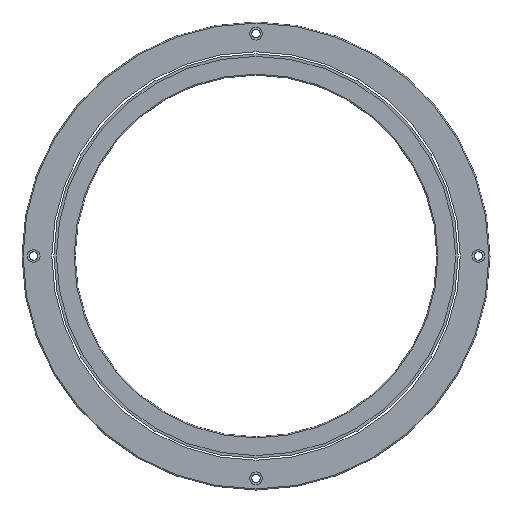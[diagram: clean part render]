
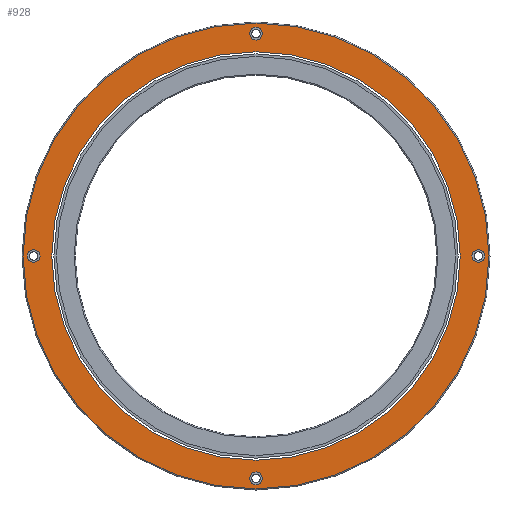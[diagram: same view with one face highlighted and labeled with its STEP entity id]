
A CAD part, front view. The second image highlights one B-rep face of the part: STEP entity #928.
In plain terms, the highlighted planar face has unit normal (0, -1, 0).
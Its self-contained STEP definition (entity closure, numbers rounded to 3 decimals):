
#43=CARTESIAN_POINT('',(0.,0.,0.));
#44=DIRECTION('',(0.,-1.,0.));
#45=DIRECTION('',(-1.,0.,0.));
#46=AXIS2_PLACEMENT_3D('',#43,#44,#45);
#48=CARTESIAN_POINT('',(0.,0.,0.));
#49=DIRECTION('',(0.,1.,0.));
#50=DIRECTION('',(-1.,0.,0.));
#51=AXIS2_PLACEMENT_3D('',#48,#49,#50);
#53=CARTESIAN_POINT('',(-104.5,0.,0.));
#54=DIRECTION('',(0.,1.,0.));
#55=DIRECTION('',(1.,0.,0.));
#56=AXIS2_PLACEMENT_3D('',#53,#54,#55);
#58=CARTESIAN_POINT('',(-104.5,0.,0.));
#59=DIRECTION('',(0.,1.,0.));
#60=DIRECTION('',(-1.,0.,0.));
#61=AXIS2_PLACEMENT_3D('',#58,#59,#60);
#63=CARTESIAN_POINT('',(0.,0.,104.5));
#64=DIRECTION('',(0.,1.,0.));
#65=DIRECTION('',(0.,0.,-1.));
#66=AXIS2_PLACEMENT_3D('',#63,#64,#65);
#68=CARTESIAN_POINT('',(0.,0.,104.5));
#69=DIRECTION('',(0.,1.,0.));
#70=DIRECTION('',(0.,0.,1.));
#71=AXIS2_PLACEMENT_3D('',#68,#69,#70);
#73=CARTESIAN_POINT('',(104.5,0.,0.));
#74=DIRECTION('',(0.,1.,0.));
#75=DIRECTION('',(-1.,0.,0.));
#76=AXIS2_PLACEMENT_3D('',#73,#74,#75);
#78=CARTESIAN_POINT('',(104.5,0.,0.));
#79=DIRECTION('',(0.,1.,0.));
#80=DIRECTION('',(1.,0.,0.));
#81=AXIS2_PLACEMENT_3D('',#78,#79,#80);
#83=CARTESIAN_POINT('',(0.,0.,-104.5));
#84=DIRECTION('',(0.,1.,0.));
#85=DIRECTION('',(0.,0.,1.));
#86=AXIS2_PLACEMENT_3D('',#83,#84,#85);
#88=CARTESIAN_POINT('',(0.,0.,-104.5));
#89=DIRECTION('',(0.,1.,0.));
#90=DIRECTION('',(0.,0.,-1.));
#91=AXIS2_PLACEMENT_3D('',#88,#89,#90);
#93=CARTESIAN_POINT('',(0.,0.,0.));
#94=DIRECTION('',(0.,1.,0.));
#95=DIRECTION('',(-1.,0.,0.));
#96=AXIS2_PLACEMENT_3D('',#93,#94,#95);
#98=CARTESIAN_POINT('',(0.,0.,0.));
#99=DIRECTION('',(0.,1.,0.));
#100=DIRECTION('',(1.,0.,0.));
#101=AXIS2_PLACEMENT_3D('',#98,#99,#100);
#751=CARTESIAN_POINT('',(-101.5,0.,0.));
#752=VERTEX_POINT('',#751);
#753=CARTESIAN_POINT('',(-107.5,0.,0.));
#754=VERTEX_POINT('',#753);
#763=CARTESIAN_POINT('',(0.,0.,101.5));
#764=VERTEX_POINT('',#763);
#765=CARTESIAN_POINT('',(0.,0.,107.5));
#766=VERTEX_POINT('',#765);
#775=CARTESIAN_POINT('',(101.5,0.,0.));
#776=VERTEX_POINT('',#775);
#777=CARTESIAN_POINT('',(107.5,0.,0.));
#778=VERTEX_POINT('',#777);
#787=CARTESIAN_POINT('',(0.,0.,-101.5));
#788=VERTEX_POINT('',#787);
#789=CARTESIAN_POINT('',(0.,0.,-107.5));
#790=VERTEX_POINT('',#789);
#808=CARTESIAN_POINT('',(-96.,0.,0.));
#810=VERTEX_POINT('',#808);
#812=CARTESIAN_POINT('',(96.,0.,0.));
#814=VERTEX_POINT('',#812);
#827=CARTESIAN_POINT('',(-109.5,0.,0.));
#828=CARTESIAN_POINT('',(109.5,0.,0.));
#829=VERTEX_POINT('',#827);
#830=VERTEX_POINT('',#828);
#889=CARTESIAN_POINT('',(0.,0.,0.));
#890=DIRECTION('',(0.,1.,0.));
#891=DIRECTION('',(1.,0.,0.));
#892=AXIS2_PLACEMENT_3D('',#889,#890,#891);
#893=PLANE('',#892);
#895=ORIENTED_EDGE('',*,*,#894,.T.);
#897=ORIENTED_EDGE('',*,*,#896,.T.);
#898=EDGE_LOOP('',(#895,#897));
#899=FACE_OUTER_BOUND('',#898,.F.);
#900=ORIENTED_EDGE('',*,*,#868,.F.);
#901=ORIENTED_EDGE('',*,*,#884,.F.);
#902=EDGE_LOOP('',(#900,#901));
#903=FACE_BOUND('',#902,.F.);
#905=ORIENTED_EDGE('',*,*,#904,.F.);
#907=ORIENTED_EDGE('',*,*,#906,.F.);
#908=EDGE_LOOP('',(#905,#907));
#909=FACE_BOUND('',#908,.F.);
#911=ORIENTED_EDGE('',*,*,#910,.F.);
#913=ORIENTED_EDGE('',*,*,#912,.F.);
#914=EDGE_LOOP('',(#911,#913));
#915=FACE_BOUND('',#914,.F.);
#917=ORIENTED_EDGE('',*,*,#916,.F.);
#919=ORIENTED_EDGE('',*,*,#918,.F.);
#920=EDGE_LOOP('',(#917,#919));
#921=FACE_BOUND('',#920,.F.);
#923=ORIENTED_EDGE('',*,*,#922,.T.);
#925=ORIENTED_EDGE('',*,*,#924,.F.);
#926=EDGE_LOOP('',(#923,#925));
#927=FACE_BOUND('',#926,.F.);
#47=CIRCLE('',#46,96.);
#52=CIRCLE('',#51,96.);
#57=CIRCLE('',#56,3.);
#62=CIRCLE('',#61,3.);
#67=CIRCLE('',#66,3.);
#72=CIRCLE('',#71,3.);
#77=CIRCLE('',#76,3.);
#82=CIRCLE('',#81,3.);
#87=CIRCLE('',#86,3.);
#92=CIRCLE('',#91,3.);
#97=CIRCLE('',#96,109.5);
#102=CIRCLE('',#101,109.5);
#868=EDGE_CURVE('',#752,#754,#57,.T.);
#884=EDGE_CURVE('',#754,#752,#62,.T.);
#894=EDGE_CURVE('',#829,#830,#97,.T.);
#896=EDGE_CURVE('',#830,#829,#102,.T.);
#904=EDGE_CURVE('',#764,#766,#67,.T.);
#906=EDGE_CURVE('',#766,#764,#72,.T.);
#910=EDGE_CURVE('',#776,#778,#77,.T.);
#912=EDGE_CURVE('',#778,#776,#82,.T.);
#916=EDGE_CURVE('',#788,#790,#87,.T.);
#918=EDGE_CURVE('',#790,#788,#92,.T.);
#922=EDGE_CURVE('',#810,#814,#47,.T.);
#924=EDGE_CURVE('',#810,#814,#52,.T.);
#928=ADVANCED_FACE('',(#899,#903,#909,#915,#921,#927),#893,.F.);
